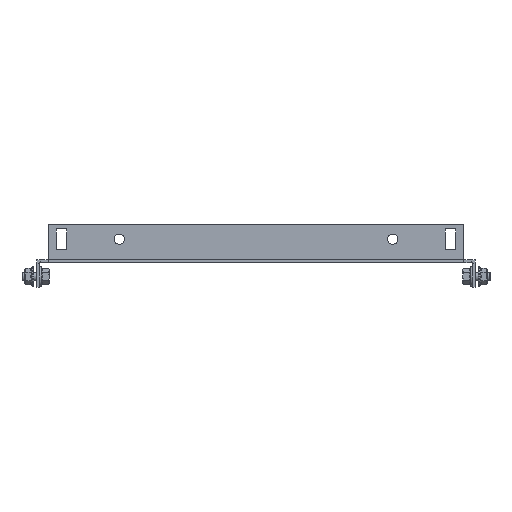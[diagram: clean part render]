
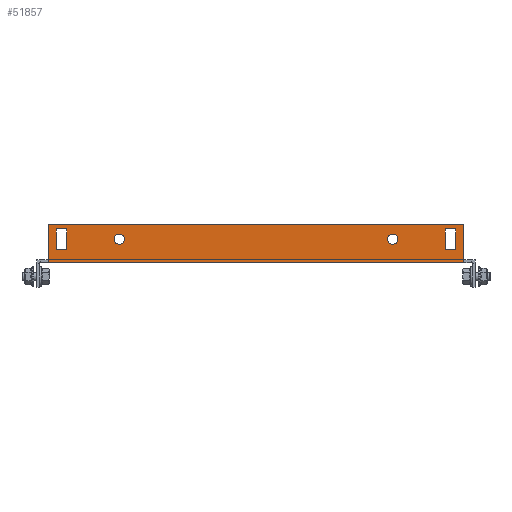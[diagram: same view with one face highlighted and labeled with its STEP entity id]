
A CAD part, front view. The second image highlights one B-rep face of the part: STEP entity #51857.
In plain terms, the highlighted planar face has unit normal (0, -1, 0).
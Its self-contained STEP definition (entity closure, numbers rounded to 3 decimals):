
#47430 = VERTEX_POINT('',#47431);
#47431 = CARTESIAN_POINT('',(142.,-384.5,0.));
#47437 = EDGE_CURVE('',#47438,#47430,#47440,.T.);
#47438 = VERTEX_POINT('',#47439);
#47439 = CARTESIAN_POINT('',(-142.,-384.5,0.));
#47440 = LINE('',#47441,#47442);
#47441 = CARTESIAN_POINT('',(-142.,-384.5,0.));
#47442 = VECTOR('',#47443,1.);
#47443 = DIRECTION('',(1.,-0.,-0.));
#51736 = VERTEX_POINT('',#51737);
#51737 = CARTESIAN_POINT('',(-142.,-384.5,2.6));
#51752 = EDGE_CURVE('',#51736,#47438,#51753,.T.);
#51753 = LINE('',#51754,#51755);
#51754 = CARTESIAN_POINT('',(-142.,-384.5,2.6));
#51755 = VECTOR('',#51756,1.);
#51756 = DIRECTION('',(0.,0.,-1.));
#51776 = VERTEX_POINT('',#51777);
#51777 = CARTESIAN_POINT('',(142.,-384.5,2.6));
#51783 = EDGE_CURVE('',#51776,#47430,#51784,.T.);
#51784 = LINE('',#51785,#51786);
#51785 = CARTESIAN_POINT('',(142.,-384.5,2.));
#51786 = VECTOR('',#51787,1.);
#51787 = DIRECTION('',(-0.,0.,-1.));
#51809 = VERTEX_POINT('',#51810);
#51810 = CARTESIAN_POINT('',(142.,-384.5,26.));
#51816 = EDGE_CURVE('',#51776,#51809,#51817,.T.);
#51817 = LINE('',#51818,#51819);
#51818 = CARTESIAN_POINT('',(142.,-384.5,26.));
#51819 = VECTOR('',#51820,1.);
#51820 = DIRECTION('',(-0.,0.,1.));
#51831 = EDGE_CURVE('',#51832,#51736,#51834,.T.);
#51832 = VERTEX_POINT('',#51833);
#51833 = CARTESIAN_POINT('',(-142.,-384.5,26.));
#51834 = LINE('',#51835,#51836);
#51835 = CARTESIAN_POINT('',(-142.,-384.5,2.));
#51836 = VECTOR('',#51837,1.);
#51837 = DIRECTION('',(-0.,0.,-1.));
#51857 = ADVANCED_FACE('',(#51858,#51892,#51903,#51914,#51948),#51961,
  .F.);
#51858 = FACE_BOUND('',#51859,.T.);
#51859 = EDGE_LOOP('',(#51860,#51870,#51878,#51886));
#51860 = ORIENTED_EDGE('',*,*,#51861,.F.);
#51861 = EDGE_CURVE('',#51862,#51864,#51866,.T.);
#51862 = VERTEX_POINT('',#51863);
#51863 = CARTESIAN_POINT('',(136.5,-384.5,9.));
#51864 = VERTEX_POINT('',#51865);
#51865 = CARTESIAN_POINT('',(136.5,-384.5,23.));
#51866 = LINE('',#51867,#51868);
#51867 = CARTESIAN_POINT('',(136.5,-384.5,23.));
#51868 = VECTOR('',#51869,1.);
#51869 = DIRECTION('',(-0.,-0.,1.));
#51870 = ORIENTED_EDGE('',*,*,#51871,.F.);
#51871 = EDGE_CURVE('',#51872,#51862,#51874,.T.);
#51872 = VERTEX_POINT('',#51873);
#51873 = CARTESIAN_POINT('',(129.5,-384.5,9.));
#51874 = LINE('',#51875,#51876);
#51875 = CARTESIAN_POINT('',(136.5,-384.5,9.));
#51876 = VECTOR('',#51877,1.);
#51877 = DIRECTION('',(1.,-0.,-0.));
#51878 = ORIENTED_EDGE('',*,*,#51879,.F.);
#51879 = EDGE_CURVE('',#51880,#51872,#51882,.T.);
#51880 = VERTEX_POINT('',#51881);
#51881 = CARTESIAN_POINT('',(129.5,-384.5,23.));
#51882 = LINE('',#51883,#51884);
#51883 = CARTESIAN_POINT('',(129.5,-384.5,9.));
#51884 = VECTOR('',#51885,1.);
#51885 = DIRECTION('',(0.,-0.,-1.));
#51886 = ORIENTED_EDGE('',*,*,#51887,.F.);
#51887 = EDGE_CURVE('',#51864,#51880,#51888,.T.);
#51888 = LINE('',#51889,#51890);
#51889 = CARTESIAN_POINT('',(129.5,-384.5,23.));
#51890 = VECTOR('',#51891,1.);
#51891 = DIRECTION('',(-1.,-0.,-0.));
#51892 = FACE_BOUND('',#51893,.T.);
#51893 = EDGE_LOOP('',(#51894));
#51894 = ORIENTED_EDGE('',*,*,#51895,.F.);
#51895 = EDGE_CURVE('',#51896,#51896,#51898,.T.);
#51896 = VERTEX_POINT('',#51897);
#51897 = CARTESIAN_POINT('',(93.5,-384.5,19.5));
#51898 = CIRCLE('',#51899,3.5);
#51899 = AXIS2_PLACEMENT_3D('',#51900,#51901,#51902);
#51900 = CARTESIAN_POINT('',(93.5,-384.5,16.));
#51901 = DIRECTION('',(0.,-1.,0.));
#51902 = DIRECTION('',(0.,0.,1.));
#51903 = FACE_BOUND('',#51904,.T.);
#51904 = EDGE_LOOP('',(#51905));
#51905 = ORIENTED_EDGE('',*,*,#51906,.F.);
#51906 = EDGE_CURVE('',#51907,#51907,#51909,.T.);
#51907 = VERTEX_POINT('',#51908);
#51908 = CARTESIAN_POINT('',(-93.5,-384.5,12.5));
#51909 = CIRCLE('',#51910,3.5);
#51910 = AXIS2_PLACEMENT_3D('',#51911,#51912,#51913);
#51911 = CARTESIAN_POINT('',(-93.5,-384.5,16.));
#51912 = DIRECTION('',(0.,-1.,0.));
#51913 = DIRECTION('',(0.,0.,-1.));
#51914 = FACE_BOUND('',#51915,.T.);
#51915 = EDGE_LOOP('',(#51916,#51926,#51934,#51942));
#51916 = ORIENTED_EDGE('',*,*,#51917,.F.);
#51917 = EDGE_CURVE('',#51918,#51920,#51922,.T.);
#51918 = VERTEX_POINT('',#51919);
#51919 = CARTESIAN_POINT('',(-136.5,-384.5,23.));
#51920 = VERTEX_POINT('',#51921);
#51921 = CARTESIAN_POINT('',(-136.5,-384.5,9.));
#51922 = LINE('',#51923,#51924);
#51923 = CARTESIAN_POINT('',(-136.5,-384.5,9.));
#51924 = VECTOR('',#51925,1.);
#51925 = DIRECTION('',(-0.,-0.,-1.));
#51926 = ORIENTED_EDGE('',*,*,#51927,.F.);
#51927 = EDGE_CURVE('',#51928,#51918,#51930,.T.);
#51928 = VERTEX_POINT('',#51929);
#51929 = CARTESIAN_POINT('',(-129.5,-384.5,23.));
#51930 = LINE('',#51931,#51932);
#51931 = CARTESIAN_POINT('',(-136.5,-384.5,23.));
#51932 = VECTOR('',#51933,1.);
#51933 = DIRECTION('',(-1.,-0.,-0.));
#51934 = ORIENTED_EDGE('',*,*,#51935,.F.);
#51935 = EDGE_CURVE('',#51936,#51928,#51938,.T.);
#51936 = VERTEX_POINT('',#51937);
#51937 = CARTESIAN_POINT('',(-129.5,-384.5,9.));
#51938 = LINE('',#51939,#51940);
#51939 = CARTESIAN_POINT('',(-129.5,-384.5,23.));
#51940 = VECTOR('',#51941,1.);
#51941 = DIRECTION('',(-0.,-0.,1.));
#51942 = ORIENTED_EDGE('',*,*,#51943,.F.);
#51943 = EDGE_CURVE('',#51920,#51936,#51944,.T.);
#51944 = LINE('',#51945,#51946);
#51945 = CARTESIAN_POINT('',(-129.5,-384.5,9.));
#51946 = VECTOR('',#51947,1.);
#51947 = DIRECTION('',(1.,-0.,-0.));
#51948 = FACE_BOUND('',#51949,.T.);
#51949 = EDGE_LOOP('',(#51950,#51951,#51952,#51953,#51954,#51955));
#51950 = ORIENTED_EDGE('',*,*,#51831,.T.);
#51951 = ORIENTED_EDGE('',*,*,#51752,.T.);
#51952 = ORIENTED_EDGE('',*,*,#47437,.T.);
#51953 = ORIENTED_EDGE('',*,*,#51783,.F.);
#51954 = ORIENTED_EDGE('',*,*,#51816,.T.);
#51955 = ORIENTED_EDGE('',*,*,#51956,.T.);
#51956 = EDGE_CURVE('',#51809,#51832,#51957,.T.);
#51957 = LINE('',#51958,#51959);
#51958 = CARTESIAN_POINT('',(-142.,-384.5,26.));
#51959 = VECTOR('',#51960,1.);
#51960 = DIRECTION('',(-1.,-0.,-0.));
#51961 = PLANE('',#51962);
#51962 = AXIS2_PLACEMENT_3D('',#51963,#51964,#51965);
#51963 = CARTESIAN_POINT('',(142.,-384.5,2.));
#51964 = DIRECTION('',(-0.,1.,0.));
#51965 = DIRECTION('',(0.,0.,1.));
